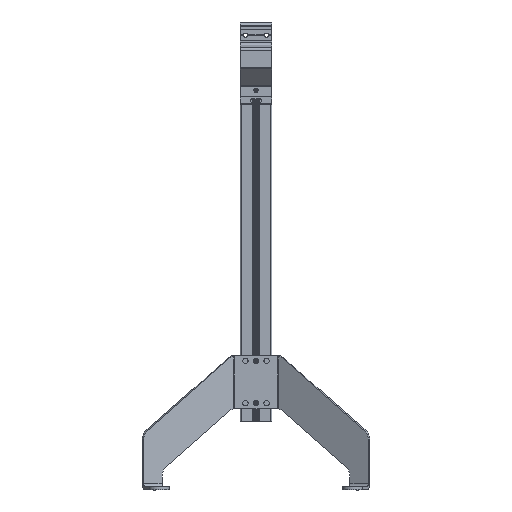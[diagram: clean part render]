
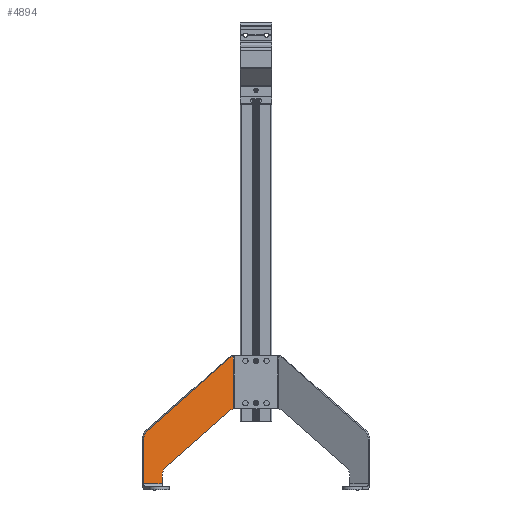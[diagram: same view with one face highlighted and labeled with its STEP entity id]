
A CAD part, left-side view. The second image highlights one B-rep face of the part: STEP entity #4894.
In plain terms, the highlighted planar face has unit normal (-0.866, -0.5, 0) as drawn and (0, 0, -1) by its records, which use the part's own axes.
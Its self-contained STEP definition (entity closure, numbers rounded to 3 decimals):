
#4439=CARTESIAN_POINT('',(44.524,45.482,-2.5));
#4440=VERTEX_POINT('',#4439);
#4649=CARTESIAN_POINT('',(44.524,145.482,-2.5));
#4650=VERTEX_POINT('',#4649);
#4700=CARTESIAN_POINT('',(44.524,45.482,-2.5));
#4701=DIRECTION('',(0.0,1.0,0.0));
#4702=VECTOR('',#4701,100.);
#4703=LINE('',#4700,#4702);
#4704=EDGE_CURVE('',#4440,#4650,#4703,.T.);
#4718=CARTESIAN_POINT('',(52.169,41.872,-2.5));
#4719=VERTEX_POINT('',#4718);
#4720=CARTESIAN_POINT('',(40.0,26.,-2.5));
#4721=DIRECTION('',(0.0,0.0,-1.0));
#4722=DIRECTION('',(-0.608,-0.794,0.0));
#4723=AXIS2_PLACEMENT_3D('',#4720,#4721,#4722);
#4724=CIRCLE('',#4723,20.0);
#4725=EDGE_CURVE('',#4440,#4719,#4724,.T.);
#4820=CARTESIAN_POINT('',(0.,2.612,-2.5));
#4821=DIRECTION('',(0.0,0.0,1.0));
#4822=DIRECTION('',(1.0,0.0,0.0));
#4823=AXIS2_PLACEMENT_3D('',#4820,#4821,#4822);
#4824=PLANE('',#4823);
#4825=ORIENTED_EDGE('',*,*,#4704,.T.);
#4826=CARTESIAN_POINT('',(52.169,141.872,-2.5));
#4827=VERTEX_POINT('',#4826);
#4828=CARTESIAN_POINT('',(40.,126.,-2.5));
#4829=DIRECTION('',(0.0,0.0,1.));
#4830=DIRECTION('',(0.608,0.794,0.0));
#4831=AXIS2_PLACEMENT_3D('',#4828,#4829,#4830);
#4832=CIRCLE('',#4831,20.);
#4833=EDGE_CURVE('',#4827,#4650,#4832,.T.);
#4834=ORIENTED_EDGE('',*,*,#4833,.F.);
#4835=CARTESIAN_POINT('',(232.169,3.872,-2.5));
#4836=VERTEX_POINT('',#4835);
#4837=CARTESIAN_POINT('',(232.169,3.872,-2.5));
#4838=DIRECTION('',(-0.794,0.608,0.0));
#4839=VECTOR('',#4838,226.813);
#4840=LINE('',#4837,#4839);
#4841=EDGE_CURVE('',#4836,#4827,#4840,.T.);
#4842=ORIENTED_EDGE('',*,*,#4841,.F.);
#4843=CARTESIAN_POINT('',(240.0,-12.,-2.5));
#4844=VERTEX_POINT('',#4843);
#4845=CARTESIAN_POINT('',(220.,-12.,-2.5));
#4846=DIRECTION('',(0.0,0.0,1.0));
#4847=DIRECTION('',(1.0,0.0,0.0));
#4848=AXIS2_PLACEMENT_3D('',#4845,#4846,#4847);
#4849=CIRCLE('',#4848,20.0);
#4850=EDGE_CURVE('',#4844,#4836,#4849,.T.);
#4851=ORIENTED_EDGE('',*,*,#4850,.F.);
#4852=CARTESIAN_POINT('',(240.0,-96.,-2.5));
#4853=VERTEX_POINT('',#4852);
#4854=CARTESIAN_POINT('',(240.0,-96.,-2.5));
#4855=DIRECTION('',(0.0,1.0,0.0));
#4856=VECTOR('',#4855,84.);
#4857=LINE('',#4854,#4856);
#4858=EDGE_CURVE('',#4853,#4844,#4857,.T.);
#4859=ORIENTED_EDGE('',*,*,#4858,.F.);
#4860=CARTESIAN_POINT('',(200.,-96.,-2.5));
#4861=VERTEX_POINT('',#4860);
#4862=CARTESIAN_POINT('',(240.0,-96.,-2.5));
#4863=DIRECTION('',(-1.0,0.0,0.0));
#4864=VECTOR('',#4863,40.);
#4865=LINE('',#4862,#4864);
#4866=EDGE_CURVE('',#4853,#4861,#4865,.T.);
#4867=ORIENTED_EDGE('',*,*,#4866,.T.);
#4868=CARTESIAN_POINT('',(200.,-81.333,-2.5));
#4869=VERTEX_POINT('',#4868);
#4870=CARTESIAN_POINT('',(200.,-81.333,-2.5));
#4871=DIRECTION('',(0.0,-1.0,0.0));
#4872=VECTOR('',#4871,14.667);
#4873=LINE('',#4870,#4872);
#4874=EDGE_CURVE('',#4869,#4861,#4873,.T.);
#4875=ORIENTED_EDGE('',*,*,#4874,.F.);
#4876=CARTESIAN_POINT('',(192.169,-65.461,-2.5));
#4877=VERTEX_POINT('',#4876);
#4878=CARTESIAN_POINT('',(180.,-81.333,-2.5));
#4879=DIRECTION('',(0.0,0.0,-1.0));
#4880=DIRECTION('',(-1.0,0.0,0.0));
#4881=AXIS2_PLACEMENT_3D('',#4878,#4879,#4880);
#4882=CIRCLE('',#4881,20.0);
#4883=EDGE_CURVE('',#4877,#4869,#4882,.T.);
#4884=ORIENTED_EDGE('',*,*,#4883,.F.);
#4885=CARTESIAN_POINT('',(52.169,41.872,-2.5));
#4886=DIRECTION('',(0.794,-0.608,0.0));
#4887=VECTOR('',#4886,176.41);
#4888=LINE('',#4885,#4887);
#4889=EDGE_CURVE('',#4719,#4877,#4888,.T.);
#4890=ORIENTED_EDGE('',*,*,#4889,.F.);
#4891=ORIENTED_EDGE('',*,*,#4725,.F.);
#4892=EDGE_LOOP('',(#4825,#4834,#4842,#4851,#4859,#4867,#4875,#4884,#4890,#4891));
#4893=FACE_OUTER_BOUND('',#4892,.T.);
#4894=ADVANCED_FACE('',(#4893),#4824,.F.);
